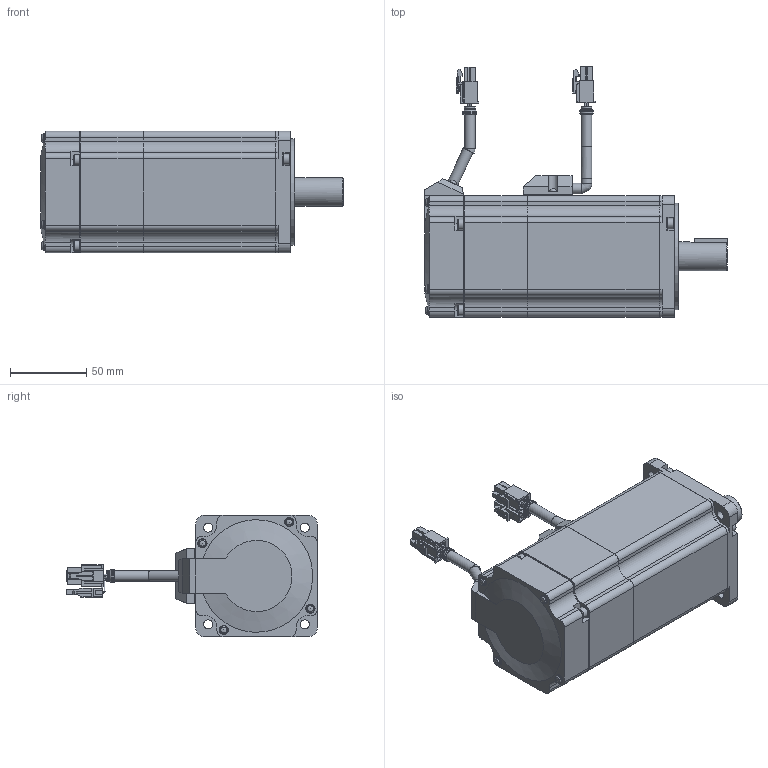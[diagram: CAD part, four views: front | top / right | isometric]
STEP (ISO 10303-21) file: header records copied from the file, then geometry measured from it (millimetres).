
FILE_DESCRIPTION( ( 'STEP AP0' ), '1' );
FILE_NAME( '//expscmdclustefs.cadenas.external/client_exchange/iodir/jobs/output/wkb64910545_no0/STEP/MHMD082G1VA_2_03.stp', ' ', ( ' ' ), ( ' ' ), 'PSStep 15.0.47', 'PARTsolutions', ' ' );
FILE_SCHEMA( ( 'CONFIG_CONTROL_DESIGN' ) );
Length unit declared in the file: millimetre
Products named in the file (9): MHMD082G1VA; HI_0.75 kWith key and end of tapYes body; HI_Motoplug--08B; HI_Brake--08P; HI_Motor Connector; HI_Brake Connector; HI_Encoder--08P; HI_Cabel brake--08-P-6; HI_2500 p/r Connector
Assembly tree (8 placements, depth 2):
  MHMD082G1VA
    HI_0.75 kWith key and end of tapYes body
    HI_Motoplug--08B
    HI_Brake--08P
    HI_Motor Connector
    HI_Brake Connector
    HI_Encoder--08P
    HI_Cabel brake--08-P-6
    HI_2500 p/r Connector
Bounding box: 199.2 x 164.8 x 80 mm (x, y, z)
Volume: 968864.2 mm3; surface area: 82466.6 mm2
Topology: 8 solids, 8 shells, 908 faces, 2330 edges, 1523 vertices
Faces by surface type: plane 658, cylinder 198, cone 27, torus 17, sphere 4, bspline 4
Full cylindrical faces by diameter (mm): 1 x14, 1.82 x4, 2.6 x12, 4.134 x1, 4.5 x4, 6 x8, 7 x15, 8 x5, 9 x2, 19 x1, 29.4 x1, 31.14 x1, 70 x1
Entity records: 26934 total; most frequent: CARTESIAN_POINT 4828, DIRECTION 4452, ORIENTED_EDGE 4364, EDGE_CURVE 2182, LINE 1704, VECTOR 1704, VERTEX_POINT 1498, AXIS2_PLACEMENT_3D 1374
